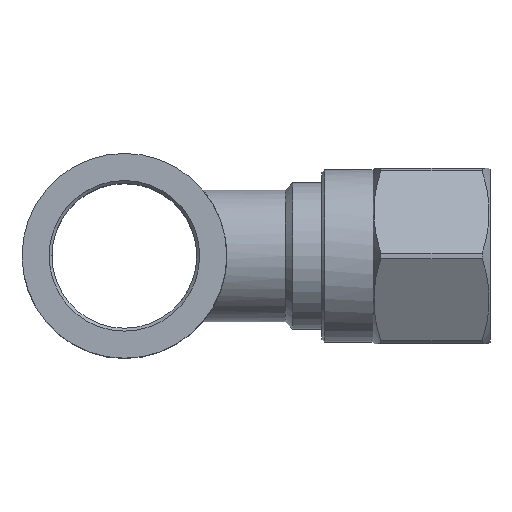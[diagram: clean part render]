
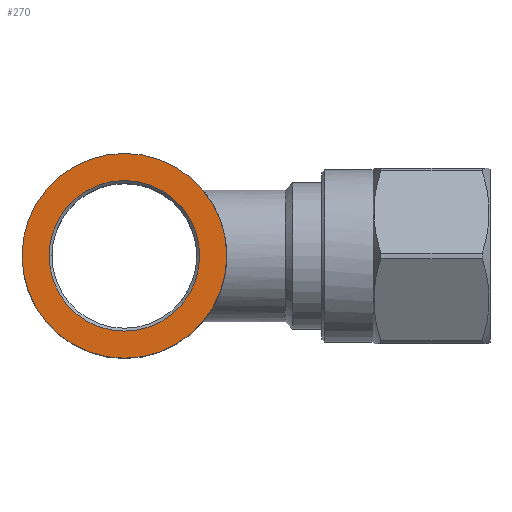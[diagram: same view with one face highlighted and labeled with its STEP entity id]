
A CAD part, top view. The second image highlights one B-rep face of the part: STEP entity #270.
In plain terms, the highlighted planar face has unit normal (0, 0, 1).
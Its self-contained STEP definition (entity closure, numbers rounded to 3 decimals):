
#270=ADVANCED_FACE('', (#280,#290), #300, .T.);
#2380=AXIS2_PLACEMENT_3D('Ax2Pl3d', #2390, #2400, #2410);
#2420=AXIS2_PLACEMENT_3D('Ax2Pl3d', #2430, #2440, #2450);
#2460=AXIS2_PLACEMENT_3D('Ax2Pl3d', #2470, #2480, #2490);
#2390=CARTESIAN_POINT('HicPkt', (17.432,12.493,
20.876));
#2430=CARTESIAN_POINT('HicPkt', (10.432,12.493,
20.876));
#20200=CARTESIAN_POINT('', (10.432,5.493,20.876));
#2470=CARTESIAN_POINT('HicPkt', (10.432,12.493,
20.876));
#20210=CARTESIAN_POINT('', (10.432,17.643,20.876));
#20920=CIRCLE('Circle', #2420, 7.);
#20930=CIRCLE('Circle', #2460, 5.15);
#2400=DIRECTION('Axis', (0.,0.,1.));
#2410=DIRECTION('RefDirection', (1.,0.,-0.));
#2440=DIRECTION('Axis', (0.,0.,-1.));
#2450=DIRECTION('RefDirection', (-1.,-0.,0.));
#2480=DIRECTION('Axis', (0.,0.,1.));
#2490=DIRECTION('RefDirection', (1.,0.,-0.));
#23960=EDGE_CURVE('', #23970, #23970, #20920, .T.);
#23980=EDGE_CURVE('', #23990, #23990, #20930, .T.);
#25450=EDGE_LOOP('Edge_loop', (#25460));
#25470=EDGE_LOOP('Edge_loop', (#25480));
#290=FACE_BOUND('', #25470, .T.);
#280=FACE_OUTER_BOUND('Face_outer_bound', #25450, .T.);
#25460=ORIENTED_EDGE('', *, *, #23960, .F.);
#25480=ORIENTED_EDGE('', *, *, #23980, .F.);
#300=PLANE('Plane', #2380);
#23970=VERTEX_POINT('', #20200);
#23990=VERTEX_POINT('', #20210);
